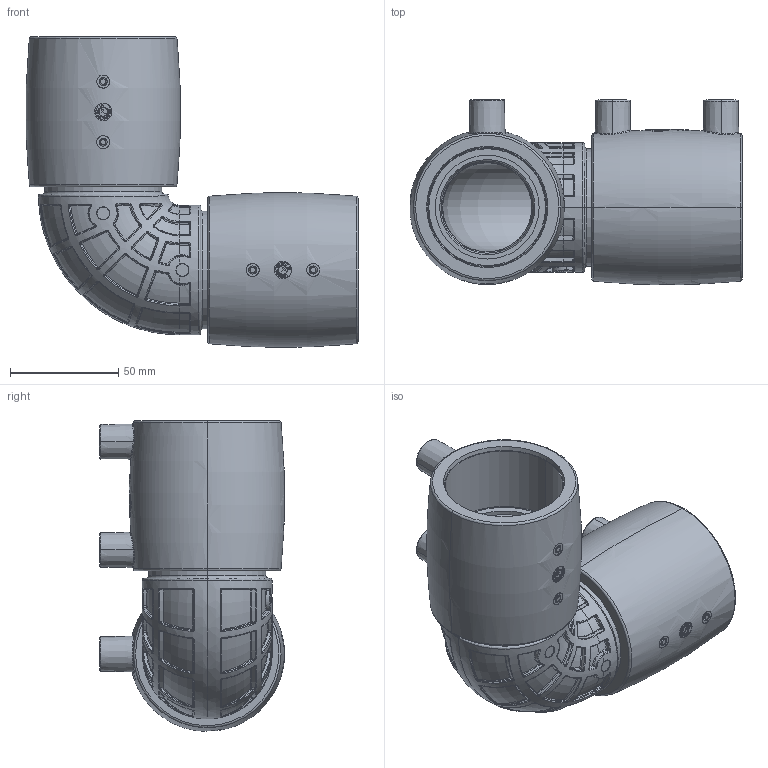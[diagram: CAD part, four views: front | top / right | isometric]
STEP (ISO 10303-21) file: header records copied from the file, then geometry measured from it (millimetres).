
FILE_DESCRIPTION (( 'STEP AP214' ), '1' );
FILE_NAME ('KP_23-54E.STEP', '2022-04-28T06:53:17', ( '' ), ( '' ), 'SwSTEP 2.0', 'SolidWorks 2022', '' );
FILE_SCHEMA (( 'AUTOMOTIVE_DESIGN' ));
Length unit declared in the file: millimetre
Products named in the file (3): KP_2-54; KP_3-54E; KP_23-54E
Assembly tree (3 placements, depth 2):
  KP_23-54E
    KP_2-54  x2
    KP_3-54E
Bounding box: 153.48 x 85.53 x 143.48 mm (x, y, z)
Volume: 384670.1 mm3; surface area: 169721.8 mm2
Topology: 3 solids, 5 shells, 2067 faces, 5077 edges, 3178 vertices
Faces by surface type: plane 668, bspline 617, cylinder 392, torus 278, cone 102, sphere 10
Entity records: 74579 total; most frequent: CARTESIAN_POINT 33621, ORIENTED_EDGE 7024, DIRECTION 5110, EDGE_CURVE 3512, VERTEX_POINT 2146, AXIS2_PLACEMENT_3D 2059, EDGE_LOOP 1566, ADVANCED_FACE 1462
